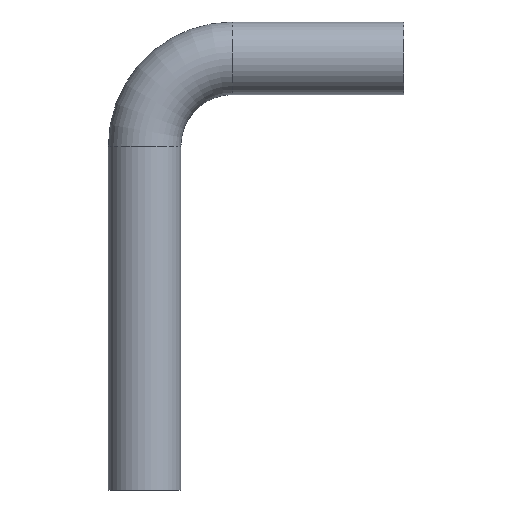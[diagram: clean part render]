
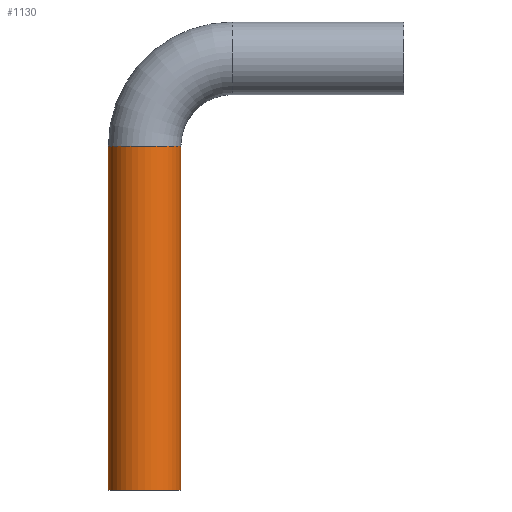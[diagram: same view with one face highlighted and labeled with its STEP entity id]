
A CAD part, front view. The second image highlights one B-rep face of the part: STEP entity #1130.
In plain terms, the highlighted cylindrical face has radius 21 mm (diameter 42 mm), a partial arc.
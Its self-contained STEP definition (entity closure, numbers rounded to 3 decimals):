
#210=CARTESIAN_POINT('',(50.717,48.566,0.));
#220=DIRECTION('',(0.,0.,1.));
#230=DIRECTION('',(1.,0.,0.));
#240=AXIS2_PLACEMENT_3D('',#210,#220,#230);
#250=CIRCLE('',#240,21.);
#260=CARTESIAN_POINT('',(71.717,48.566,0.));
#270=VERTEX_POINT('',#260);
#280=CARTESIAN_POINT('',(29.717,48.566,0.));
#290=VERTEX_POINT('',#280);
#320=EDGE_CURVE('',#290,#270,#250,.T.);
#820=CARTESIAN_POINT('',(50.717,48.566,0.));
#830=DIRECTION('',(0.,0.,1.));
#840=DIRECTION('',(1.,0.,0.));
#850=AXIS2_PLACEMENT_3D('',#820,#830,#840);
#860=CYLINDRICAL_SURFACE('',#850,21.);
#870=CARTESIAN_POINT('',(71.717,48.566,0.));
#880=DIRECTION('',(0.,0.,1.));
#890=VECTOR('',#880,1.);
#900=LINE('',#870,#890);
#910=CARTESIAN_POINT('',(71.717,48.566,199.));
#920=VERTEX_POINT('',#910);
#930=EDGE_CURVE('',#270,#920,#900,.T.);
#940=ORIENTED_EDGE('',*,*,#930,.T.);
#950=ORIENTED_EDGE('',*,*,#320,.T.);
#960=CARTESIAN_POINT('',(29.717,48.566,0.));
#970=DIRECTION('',(0.,0.,1.));
#980=VECTOR('',#970,1.);
#990=LINE('',#960,#980);
#1000=CARTESIAN_POINT('',(29.717,48.566,199.));
#1010=VERTEX_POINT('',#1000);
#1020=EDGE_CURVE('',#290,#1010,#990,.T.);
#1030=ORIENTED_EDGE('',*,*,#1020,.F.);
#1040=CARTESIAN_POINT('',(50.717,48.566,199.));
#1050=DIRECTION('',(0.,0.,1.));
#1060=DIRECTION('',(1.,0.,0.));
#1070=AXIS2_PLACEMENT_3D('',#1040,#1050,#1060);
#1080=CIRCLE('',#1070,21.);
#1090=EDGE_CURVE('',#1010,#920,#1080,.T.);
#1100=ORIENTED_EDGE('',*,*,#1090,.F.);
#1110=EDGE_LOOP('',(#1100,#1030,#950,#940));
#1120=FACE_OUTER_BOUND('',#1110,.T.);
#1130=ADVANCED_FACE('',(#1120),#860,.T.);
